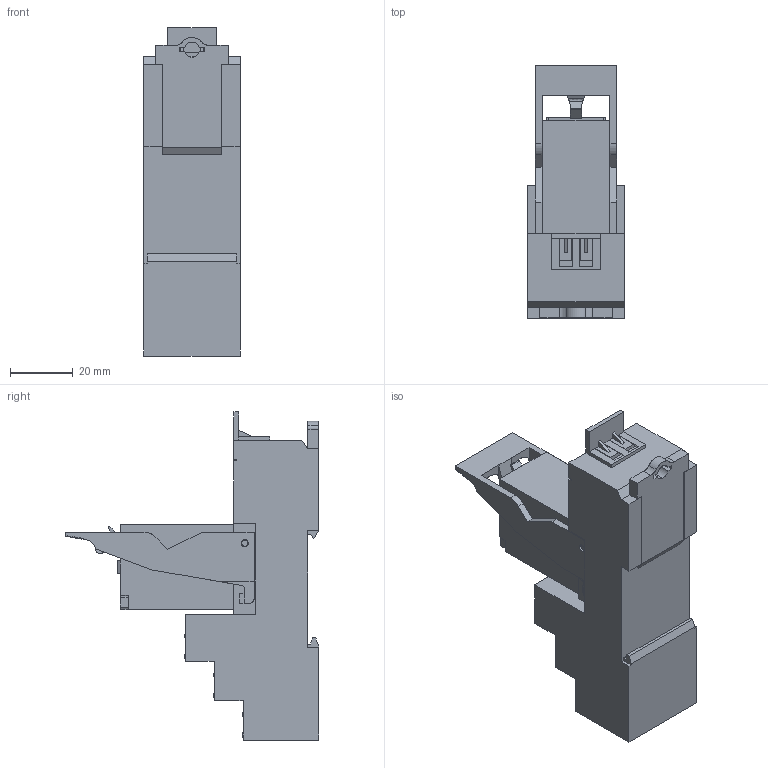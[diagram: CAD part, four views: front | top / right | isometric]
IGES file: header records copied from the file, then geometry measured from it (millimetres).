
Start section: SolidWorks IGES file using analytic representation for surfaces
Global section: file name: D:\X - Arquivos\PROEX\Empresas\P11 - METALTEX\01 - Produtos\IGES\6ª remessa\5ª etapa\PRT55M - PRYM.IGS; native system: SolidWorks 2012; preprocessor: SolidWorks 2012; author: Usuario; date: 190327.095223; units: millimetre
Bounding box: 30.55 x 80.5 x 104.3 mm (x, y, z)
Surface area: 27156.8 mm2 (no closed solid volume)
Topology: 0 solids, 0 shells, 1299 faces, 10679 edges, 10679 vertices
Faces by surface type: bspline 1243, revolution 56
